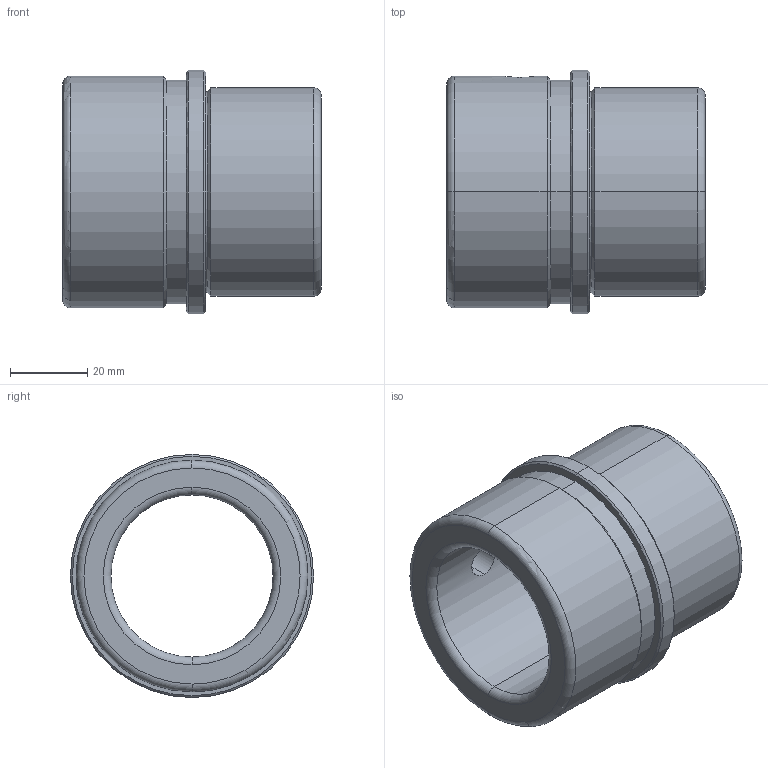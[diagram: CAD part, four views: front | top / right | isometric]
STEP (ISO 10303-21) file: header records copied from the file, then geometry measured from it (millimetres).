
FILE_DESCRIPTION(('CATIA V5 STEP Exchange'),'2;1');
FILE_NAME('C:\Users\Utente\Desktop\IO LAVORO\3D X SITO CF\X SITO\FAMO\FAMO-SF1-C42 x 67.stp','2021-01-06T17:08:43+00:00',('none'),('none'),'CATIA Version 5 Release 20 GA (IN-10)','CATIA V5 STEP AP203','none');
FILE_SCHEMA(('CONFIG_CONTROL_DESIGN'));
Length unit declared in the file: millimetre
Products named in the file (1): FAMO-SF1-C42 x 67
Bounding box: 67 x 63 x 63 mm (x, y, z)
Volume: 79368.1 mm3; surface area: 24585.5 mm2
Topology: 1 solids, 1 shells, 37 faces, 126 edges, 94 vertices
Faces by surface type: cylinder 14, cone 10, torus 8, plane 5
Entity records: 1640 total; most frequent: CARTESIAN_POINT 508, ORIENTED_EDGE 252, DIRECTION 180, EDGE_CURVE 126, AXIS2_PLACEMENT_3D 120, VERTEX_POINT 94, CIRCLE 82, EDGE_LOOP 44
